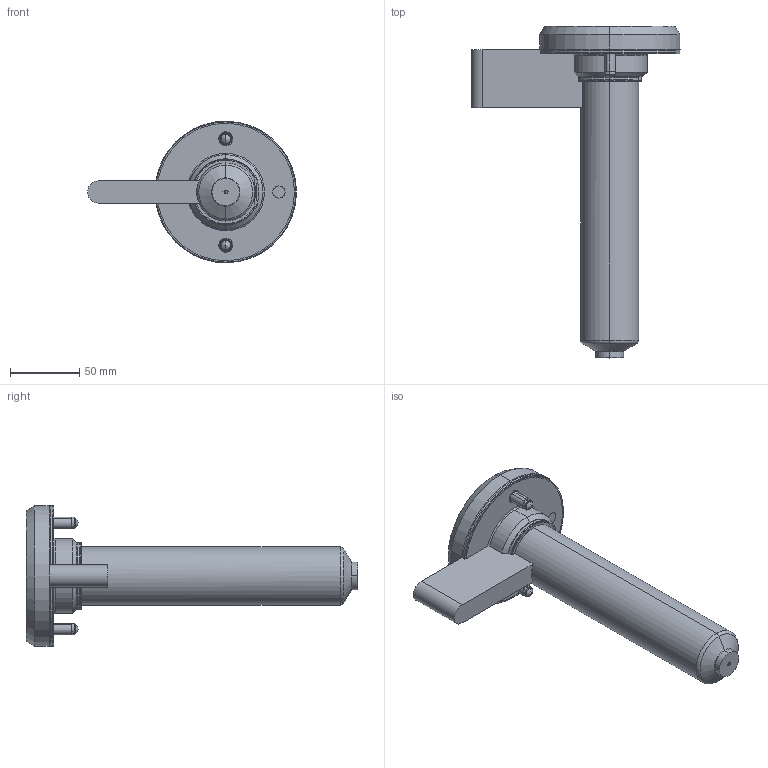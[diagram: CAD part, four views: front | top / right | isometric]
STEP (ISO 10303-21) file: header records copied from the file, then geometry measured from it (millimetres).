
FILE_DESCRIPTION (( 'STEP AP214' ), '1' );
FILE_NAME ('SOHSB16200-SOFBOP16.STEP', '2024-11-28T08:59:45', ( '' ), ( '' ), 'SwSTEP 2.0', 'SolidWorks 2022', '' );
FILE_SCHEMA (( 'AUTOMOTIVE_DESIGN' ));
Length unit declared in the file: millimetre
Products named in the file (11): EcoONE-HSB16-Open Gate Full Body Standad Tip Assembly_SOFBOP16; socket head cap screw_iso_ISO 4762 M8 x 25 - 25N; EcoONE-HSB16-16005_SOTC10350-J; EcoONE-HSB16-16003(A)_SOHSBNB16200; EcoONE-HSB16-Open Gate Full Body Retainer Tip_SOFRT1601; EcoONE-HSB16-00002(A)_SOHSBLR16; EcoONE-HSB16-Point Gate Needle Tip-Standard_SOPGN1601; EcoONE-HSB16-Open Gate Cut-out Details_Sprue Gate or Full Body Gate; SOHSB16200-SOFBOP16; EcoONE-HSB16-16006_SONHC16; EcoONE-HSB16-16004_SONH28192
Assembly tree (12 placements, depth 3):
  SOHSB16200-SOFBOP16
    EcoONE-HSB16-16003(A)_SOHSBNB16200
    EcoONE-HSB16-16004_SONH28192
    EcoONE-HSB16-16005_SOTC10350-J
    EcoONE-HSB16-16006_SONHC16  x2
    EcoONE-HSB16-00002(A)_SOHSBLR16
    socket head cap screw_iso_ISO 4762 M8 x 25 - 25N  x2
    EcoONE-HSB16-Open Gate Full Body Standad Tip Assembly_SOFBOP16
      EcoONE-HSB16-Open Gate Full Body Retainer Tip_SOFRT1601
      EcoONE-HSB16-Point Gate Needle Tip-Standard_SOPGN1601
    EcoONE-HSB16-Open Gate Cut-out Details_Sprue Gate or Full Body Gate
Bounding box: 151.2 x 240 x 102.4 mm (x, y, z)
Volume: 682343.8 mm3; surface area: 164773.2 mm2
Topology: 11 solids, 11 shells, 514 faces, 1285 edges, 806 vertices
Faces by surface type: cylinder 157, plane 134, bspline 106, cone 83, torus 26, sphere 8
Entity records: 30090 total; most frequent: CARTESIAN_POINT 18705, ORIENTED_EDGE 2346, DIRECTION 1949, EDGE_CURVE 1173, AXIS2_PLACEMENT_3D 786, VERTEX_POINT 743, EDGE_LOOP 510, ADVANCED_FACE 471
